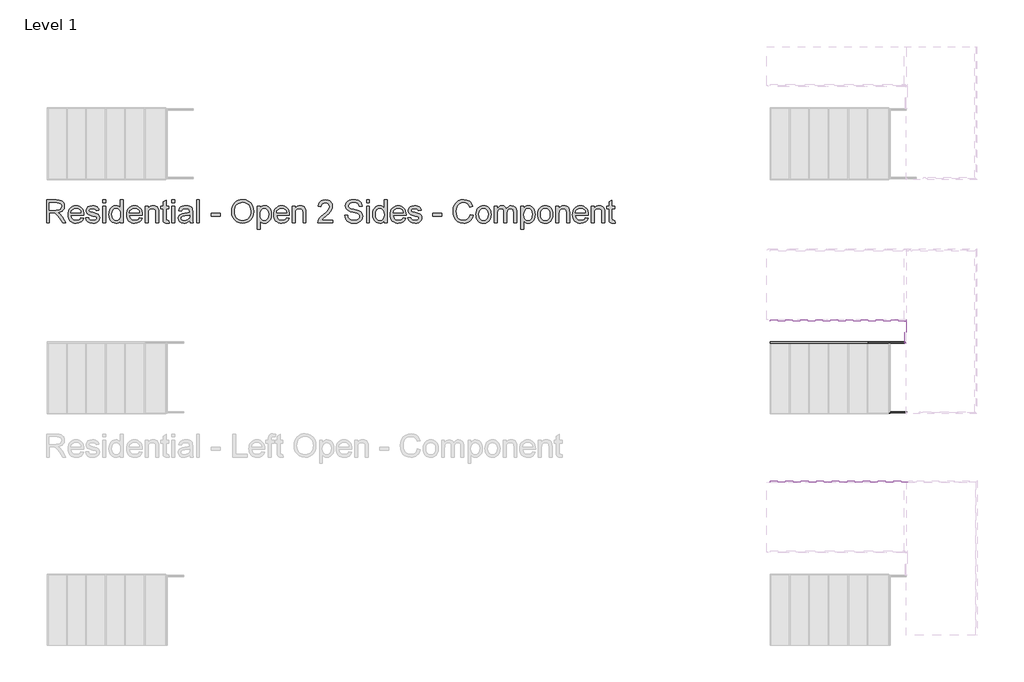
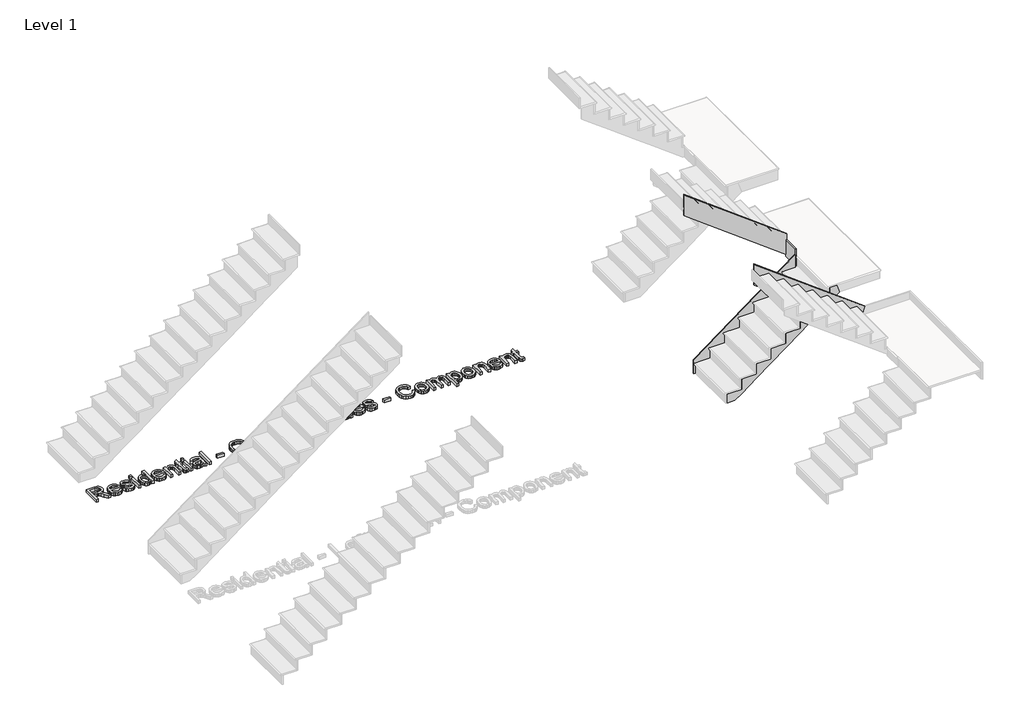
# One storey, part 10 of 15: 5 members, 1 proxy.
"""IFC4 building model written with IfcOpenShell, lengths in millimetres."""

from ifc_helpers import new_model, si_unit, frame, origin, origin_with_axes, place, context, project, spatial, polyline, outline, extrude, faceted_brep, element, save

model = new_model("IFC4")

# Units and contexts
model_context = context("Model", 3, world=origin())
ifc_project = project(units=[si_unit("LENGTHUNIT", "METRE", prefix="MILLI")], contexts=[model_context])

# Site, building, storey
site = spatial("IfcSite", under=ifc_project)
building = spatial("IfcBuilding", under=site)
storey = spatial("IfcBuildingStorey", under=building, Name="Level 1", Elevation=0.0)

# Proxy
placement = place(None, origin())
element("IfcBuildingElementProxy", 1, Name="12\" Arial", ObjectType="12\" Arial", at=placement, inside=storey, context=model_context, shape_type="SweptSolid", body=[
    extrude(outline(polyline([(-27238.310174, 3380.8767877), (-27238.310174, 3680.987557), (-27108.9899817, 3680.987557), (-27074.2328904, 3678.9634945), (-27048.9458471, 3672.891307), (-27030.4636837, 3661.6811146), (-27016.1212317, 3644.2430377), (-27006.9167846, 3622.619456), (-27003.8486356, 3598.8527493), (-27008.9316885, 3569.2886146), (-27024.1808471, 3544.780057), (-27035.7321993, 3534.7925449), (-27050.0540442, 3526.8107781), (-27087.0092125, 3516.86448), (-27065.6878664, 3500.8185185), (-27035.2811356, 3462.2056339), (-26985.238251, 3380.8767877), (-27028.8334433, 3380.8767877), (-27067.8859433, 3443.0823646), (-27096.0945971, 3484.2596723), (-27115.913924, 3503.7126531), (-27133.7549817, 3510.8564031), (-27155.5159433, 3512.1752493), (-27200.7963279, 3512.1752493), (-27200.7963279, 3380.8767877), (-27238.310174, 3380.8767877)]), holes=[polyline([(-27200.7963279, 3549.6890954), (-27116.8297894, 3549.6890954), (-27092.7150539, 3551.0171002), (-27074.003924, 3555.0011146), (-27059.9179144, 3561.9067396), (-27049.6785394, 3571.9995762), (-27043.4414962, 3584.2080618), (-27041.3624817, 3597.4606339), (-27045.3281789, 3615.7596243), (-27057.2252702, 3630.505057), (-27077.6948615, 3640.2315473), (-27107.3780587, 3643.4737108), (-27200.7963279, 3643.4737108), (-27200.7963279, 3549.6890954)])]), origin_with_axes(), (0.0, 0.0, 1.0), 50.8),
    extrude(outline(polyline([(-26788.5836356, 3446.5260185), (-26751.8024817, 3441.8367877), (-26765.0550539, 3414.1227012), (-26786.2023856, 3393.4058262), (-26814.7682269, 3380.4921243), (-26850.2763279, 3376.187557), (-26873.5530466, 3378.044474), (-26894.2928183, 3383.6152252), (-26912.4956428, 3392.8998106), (-26928.1615202, 3405.89823), (-26940.7592486, 3422.2487168), (-26949.757626, 3441.5895041), (-26955.1566524, 3463.9205918), (-26956.9563279, 3489.24198), (-26955.1383351, 3515.4219921), (-26949.6843567, 3538.4972204), (-26940.5943928, 3558.4676651), (-26927.8684433, 3575.3333262), (-26912.2437798, 3588.7324368), (-26894.457674, 3598.30323), (-26874.510126, 3604.045706), (-26852.4011356, 3605.9598646), (-26831.0042305, 3604.0502853), (-26811.6542846, 3598.3215473), (-26794.3512978, 3588.7736507), (-26779.0952702, 3575.4065954), (-26766.6417906, 3558.577569), (-26757.7464481, 3538.6437589), (-26752.4092426, 3515.6051651), (-26750.630174, 3489.4617877), (-26750.8499817, 3479.3506339), (-26919.4424817, 3479.3506339), (-26912.9489962, 3451.2702012), (-26897.8646933, 3430.6265954), (-26876.0945731, 3417.9327012), (-26849.5436356, 3413.7014031), (-26829.5777702, 3415.661355), (-26812.7624817, 3421.5412108), (-26799.0977702, 3431.7073166), (-26788.5836356, 3446.5260185)]), holes=[polyline([(-26919.4424817, 3516.86448), (-26788.1440202, 3516.86448), (-26793.2179144, 3536.683807), (-26803.1642125, 3550.8614031), (-26825.0350779, 3564.0498646), (-26852.547674, 3568.4460185), (-26877.8347173, 3564.9382541), (-26898.743924, 3554.4149608), (-26913.2787077, 3538.0118118), (-26919.4424817, 3516.86448)])]), origin_with_axes(), (0.0, 0.0, 1.0), 50.8),
    extrude(outline(polyline([(-26727.1840202, 3446.5260185), (-26689.670174, 3451.2152493), (-26683.7536837, 3435.1692877), (-26672.3053664, 3423.3729416), (-26655.2519529, 3416.1192877), (-26632.520174, 3413.7014031), (-26610.0631548, 3415.9177973), (-26594.2736356, 3422.56698), (-26584.9318087, 3432.2018839), (-26581.8178664, 3443.3754416), (-26584.950126, 3452.9370762), (-26594.3469048, 3460.2273646), (-26632.9597894, 3470.9246723), (-26689.4503664, 3489.2786146), (-26703.747025, 3498.5013791), (-26714.1054625, 3510.7098646), (-26720.3974577, 3525.1255858), (-26722.4947894, 3540.970057), (-26720.8095971, 3555.5048406), (-26715.7540202, 3568.9222685), (-26707.7859914, 3580.6911387), (-26697.3634433, 3590.2802493), (-26673.5143087, 3601.3805377), (-26641.2392125, 3605.9598646), (-26616.8222414, 3604.1189752), (-26595.5924817, 3598.596307), (-26578.520751, 3589.9322204), (-26566.5778664, 3578.6670762), (-26558.6647894, 3563.9674368), (-26553.6824817, 3544.9998646), (-26591.1963279, 3540.3106339), (-26595.9313519, 3552.1161387), (-26605.3006548, 3561.0091916), (-26619.3958231, 3566.5868118), (-26638.3084433, 3568.4460185), (-26659.8495971, 3566.6692396), (-26674.2103664, 3561.3389031), (-26682.288299, 3553.6456339), (-26684.9809433, 3544.780057), (-26680.5115202, 3533.8629416), (-26666.5170971, 3525.5835185), (-26634.2053664, 3517.5971723), (-26579.1435394, 3499.9392877), (-26564.5995971, 3491.4950089), (-26553.5725779, 3479.9367877), (-26546.6211596, 3465.2279896), (-26544.3040202, 3447.33198), (-26547.0241404, 3428.8314993), (-26555.184501, 3411.430057), (-26568.4737077, 3396.4922925), (-26586.5803664, 3385.3828454), (-26608.4512317, 3378.4863791), (-26633.0330587, 3376.187557), (-26670.858299, 3380.6203454), (-26698.4624817, 3393.9187108), (-26716.8896933, 3415.9361146), (-26727.1840202, 3446.5260185)])), origin_with_axes(), (0.0, 0.0, 1.0), 50.8),
    extrude(outline(polyline([(-26502.1009433, 3380.8767877), (-26502.1009433, 3601.2706339), (-26464.5870971, 3601.2706339), (-26464.5870971, 3380.8767877), (-26502.1009433, 3380.8767877)])), origin_with_axes(), (0.0, 0.0, 1.0), 50.8),
    extrude(outline(polyline([(-26502.1009433, 3643.4737108), (-26502.1009433, 3680.987557), (-26464.5870971, 3680.987557), (-26464.5870971, 3643.4737108), (-26502.1009433, 3643.4737108)])), origin_with_axes(), (0.0, 0.0, 1.0), 50.8),
    extrude(outline(polyline([(-26272.3286356, 3380.8767877), (-26272.3286356, 3416.2658262), (-26283.5525659, 3398.7315834), (-26297.1485875, 3386.2071243), (-26313.1167005, 3378.6924488), (-26331.4569048, 3376.187557), (-26355.7090202, 3379.8143839), (-26377.9095971, 3390.6948646), (-26396.7031548, 3408.068831), (-26410.7342125, 3431.1761146), (-26419.4715683, 3459.0825329), (-26422.3840202, 3490.8539031), (-26419.7005346, 3522.2314512), (-26411.6500779, 3550.5683262), (-26398.2418087, 3574.252605), (-26379.4848856, 3591.6723646), (-26356.7989, 3602.3879896), (-26331.6034433, 3605.9598646), (-26313.249501, 3603.4046002), (-26297.0203664, 3595.738807), (-26283.2640683, 3583.9882541), (-26272.3286356, 3569.1787108), (-26272.3286356, 3680.987557), (-26234.8147894, 3680.987557), (-26234.8147894, 3380.8767877), (-26272.3286356, 3380.8767877)]), holes=[polyline([(-26384.870174, 3491.0004416), (-26380.638876, 3457.0676291), (-26367.9449817, 3432.9345762), (-26349.4994529, 3418.5096964), (-26328.013251, 3413.7014031), (-26306.5362077, 3418.2898887), (-26288.5577702, 3432.0553454), (-26276.3859192, 3455.2542156), (-26272.3286356, 3488.1429416), (-26276.4591885, 3524.0998166), (-26288.8508471, 3549.0296723), (-26307.2872173, 3563.591932), (-26329.5519048, 3568.4460185), (-26351.2579144, 3563.7842637), (-26369.0440202, 3549.7989993), (-26380.9136356, 3525.7758502), (-26384.870174, 3491.0004416)])]), origin_with_axes(), (0.0, 0.0, 1.0), 50.8),
    extrude(outline(polyline([(-26024.2390202, 3446.5260185), (-25987.4578664, 3441.8367877), (-26000.7104385, 3414.1227012), (-26021.8577702, 3393.4058262), (-26050.4236115, 3380.4921243), (-26085.9317125, 3376.187557), (-26109.2084313, 3378.044474), (-26129.9482029, 3383.6152252), (-26148.1510274, 3392.8998106), (-26163.8169048, 3405.89823), (-26176.4146332, 3422.2487168), (-26185.4130106, 3441.5895041), (-26190.812037, 3463.9205918), (-26192.6117125, 3489.24198), (-26190.7937197, 3515.4219921), (-26185.3397414, 3538.4972204), (-26176.2497774, 3558.4676651), (-26163.5238279, 3575.3333262), (-26147.8991644, 3588.7324368), (-26130.1130587, 3598.30323), (-26110.1655106, 3604.045706), (-26088.0565202, 3605.9598646), (-26066.6596152, 3604.0502853), (-26047.3096692, 3598.3215473), (-26030.0066825, 3588.7736507), (-26014.7506548, 3575.4065954), (-26002.2971753, 3558.577569), (-25993.4018327, 3538.6437589), (-25988.0646272, 3515.6051651), (-25986.2855587, 3489.4617877), (-25986.5053664, 3479.3506339), (-26155.0978664, 3479.3506339), (-26148.6043808, 3451.2702012), (-26133.5200779, 3430.6265954), (-26111.7499577, 3417.9327012), (-26085.1990202, 3413.7014031), (-26065.2331548, 3415.661355), (-26048.4178664, 3421.5412108), (-26034.7531548, 3431.7073166), (-26024.2390202, 3446.5260185)]), holes=[polyline([(-26155.0978664, 3516.86448), (-26023.7994048, 3516.86448), (-26028.873299, 3536.683807), (-26038.8195971, 3550.8614031), (-26060.6904625, 3564.0498646), (-26088.2030587, 3568.4460185), (-26113.4901019, 3564.9382541), (-26134.3993087, 3554.4149608), (-26148.9340923, 3538.0118118), (-26155.0978664, 3516.86448)])]), origin_with_axes(), (0.0, 0.0, 1.0), 50.8),
    extrude(outline(polyline([(-25948.7717125, 3380.8767877), (-25948.7717125, 3601.2706339), (-25911.2578664, 3601.2706339), (-25911.2578664, 3570.497557), (-25898.2251019, 3586.0123166), (-25882.5729625, 3597.0942877), (-25864.3014481, 3603.7434704), (-25843.4105587, 3605.9598646), (-25824.9192365, 3604.1739271), (-25807.9848856, 3598.8161146), (-25793.8622414, 3590.5550089), (-25783.8060394, 3580.0591916), (-25772.5592125, 3552.4733262), (-25770.5809433, 3516.205057), (-25770.5809433, 3380.8767877), (-25808.0947894, 3380.8767877), (-25808.0947894, 3511.14948), (-25812.417674, 3544.3404416), (-25818.398275, 3554.2226291), (-25827.6943087, 3561.8884223), (-25839.6097173, 3566.8066195), (-25853.4484433, 3568.4460185), (-25875.4200539, 3564.7642396), (-25894.149501, 3553.7189031), (-25901.6344108, 3544.7022084), (-25906.980775, 3532.3792396), (-25911.2578664, 3497.81448), (-25911.2578664, 3380.8767877), (-25948.7717125, 3380.8767877)])), origin_with_axes(), (0.0, 0.0, 1.0), 50.8),
    extrude(outline(polyline([(-25639.2824817, 3412.1627493), (-25634.593251, 3379.7777493), (-25662.6553664, 3376.187557), (-25680.6612798, 3377.7445281), (-25694.0878664, 3382.4154416), (-25703.5762317, 3389.6141435), (-25709.7674817, 3398.75448), (-25713.174501, 3414.4524127), (-25714.310174, 3441.3239031), (-25714.310174, 3563.7567877), (-25742.4455587, 3563.7567877), (-25742.4455587, 3601.2706339), (-25714.310174, 3601.2706339), (-25714.310174, 3654.8304416), (-25676.7963279, 3676.88448), (-25676.7963279, 3601.2706339), (-25639.2824817, 3601.2706339), (-25639.2824817, 3563.7567877), (-25676.7963279, 3563.7567877), (-25676.7963279, 3442.4229416), (-25674.8180587, 3423.0798646), (-25668.407001, 3416.2291916), (-25655.6215202, 3413.7014031), (-25639.2824817, 3412.1627493)])), origin_with_axes(), (0.0, 0.0, 1.0), 50.8),
    extrude(outline(polyline([(-25601.7686356, 3380.8767877), (-25601.7686356, 3601.2706339), (-25564.2547894, 3601.2706339), (-25564.2547894, 3380.8767877), (-25601.7686356, 3380.8767877)])), origin_with_axes(), (0.0, 0.0, 1.0), 50.8),
    extrude(outline(polyline([(-25601.7686356, 3643.4737108), (-25601.7686356, 3680.987557), (-25564.2547894, 3680.987557), (-25564.2547894, 3643.4737108), (-25601.7686356, 3643.4737108)])), origin_with_axes(), (0.0, 0.0, 1.0), 50.8),
    extrude(outline(polyline([(-25367.3070971, 3409.0121723), (-25385.2305827, 3393.6439512), (-25403.6852702, 3383.5877493), (-25423.0924577, 3378.037605), (-25443.8734433, 3376.187557), (-25475.2235154, 3380.6386627), (-25498.3491164, 3393.99198), (-25512.6091404, 3414.2692396), (-25517.3624817, 3439.4921723), (-25515.5673856, 3455.0435666), (-25510.1820971, 3469.1662108), (-25501.8751981, 3481.2556339), (-25491.3152702, 3490.7073646), (-25465.048251, 3503.0165954), (-25432.5899817, 3508.6583262), (-25394.2335394, 3514.5931339), (-25367.5269048, 3521.5537108), (-25367.3070971, 3529.9064031), (-25369.8898375, 3546.6484223), (-25377.6380587, 3557.6021723), (-25394.9662317, 3565.735057), (-25419.1084433, 3568.4460185), (-25441.4555587, 3566.6417637), (-25457.0619048, 3561.2289993), (-25467.7042606, 3551.2185906), (-25475.1594048, 3535.6214031), (-25512.673251, 3540.3106339), (-25506.1614481, 3560.8260185), (-25496.4441164, 3576.9452493), (-25482.614549, 3589.2727973), (-25463.7660394, 3598.4131339), (-25440.7137077, 3604.073182), (-25414.272674, 3605.9598646), (-25388.9123615, 3604.2929896), (-25368.8091164, 3599.2923646), (-25353.6515442, 3591.7731098), (-25343.128251, 3582.5503454), (-25336.1493567, 3571.1478214), (-25331.6249817, 3557.0892877), (-25329.793251, 3524.2646723), (-25329.793251, 3477.5921723), (-25327.888251, 3412.4191916), (-25320.4147894, 3380.8767877), (-25357.9286356, 3380.8767877), (-25367.3070971, 3409.0121723)]), holes=[polyline([(-25367.3070971, 3484.0398646), (-25427.8274817, 3472.5365954), (-25460.1025779, 3466.4552493), (-25474.7197894, 3456.5639031), (-25479.8486356, 3442.1298646), (-25477.0552462, 3430.9746243), (-25468.6750779, 3421.8342877), (-25454.8913039, 3415.7346243), (-25435.8870971, 3413.7014031), (-25415.7380587, 3415.9452733), (-25397.9336356, 3422.6768839), (-25383.4995971, 3432.595706), (-25373.4617125, 3444.4012108), (-25369.0106067, 3456.5639031), (-25367.5269048, 3473.4158262), (-25367.3070971, 3484.0398646)])]), origin_with_axes(), (0.0, 0.0, 1.0), 50.8),
    extrude(outline(polyline([(-25278.2117125, 3380.8767877), (-25278.2117125, 3680.987557), (-25240.6978664, 3680.987557), (-25240.6978664, 3380.8767877), (-25278.2117125, 3380.8767877)])), origin_with_axes(), (0.0, 0.0, 1.0), 50.8),
    extrude(outline(polyline([(-25085.953251, 3469.9721723), (-25085.953251, 3507.4860185), (-24968.7224817, 3507.4860185), (-24968.7224817, 3469.9721723), (-25085.953251, 3469.9721723)])), origin_with_axes(), (0.0, 0.0, 1.0), 50.8),
    extrude(outline(polyline([(-24818.6670971, 3526.9756339), (-24816.1667846, 3562.1769199), (-24808.6658471, 3593.3392396), (-24796.1642846, 3620.462593), (-24778.6620971, 3643.54698), (-24757.2079505, 3661.9787709), (-24732.8505106, 3675.1443358), (-24705.5897774, 3683.0436747), (-24675.425751, 3685.6767877), (-24636.0618567, 3680.7311146), (-24600.7644048, 3665.8940954), (-24571.4567125, 3642.2098166), (-24550.0620971, 3610.7223646), (-24536.9835394, 3572.9520762), (-24532.6240202, 3530.4192877), (-24537.2125058, 3487.3186627), (-24550.9779625, 3449.0171723), (-24573.1602221, 3417.4747685), (-24602.9991164, 3394.6514031), (-24637.9943327, 3380.8035185), (-24675.6455587, 3376.187557), (-24715.613924, 3381.2889271), (-24751.1128664, 3396.5930377), (-24780.3472894, 3420.716932), (-24801.5220971, 3452.2776531), (-24814.3808471, 3488.5917156), (-24818.6670971, 3526.9756339)]), holes=[polyline([(-24781.153251, 3526.6092877), (-24779.2780166, 3501.7389632), (-24773.6523135, 3479.6620281), (-24764.2761416, 3460.3784824), (-24751.149501, 3443.8883262), (-24735.1928363, 3430.6815473), (-24717.3265923, 3421.2481339), (-24697.550769, 3415.5880858), (-24675.8653664, 3413.7014031), (-24653.8090382, 3415.6064031), (-24633.7996692, 3421.3214031), (-24615.8372594, 3430.8464031), (-24599.9218087, 3444.1814031), (-24586.8913339, 3461.0195882), (-24577.5838519, 3481.0541435), (-24571.9993628, 3504.285069), (-24570.1378664, 3530.7123646), (-24573.3250779, 3563.9216435), (-24582.8867125, 3592.6248646), (-24598.5754865, 3616.0984945), (-24620.1441164, 3633.6189993), (-24646.1638519, 3644.526956), (-24675.2059433, 3648.1629416), (-24696.1380466, 3646.411349), (-24715.5589721, 3641.1565714), (-24733.4687197, 3632.3986086), (-24749.8672894, 3620.1374608), (-24763.5548976, 3603.7823947), (-24773.3317606, 3582.7426771), (-24779.1978784, 3557.0183082), (-24781.153251, 3526.6092877)])]), origin_with_axes(), (0.0, 0.0, 1.0), 50.8),
    extrude(outline(polyline([(-24485.7317125, 3296.4706339), (-24485.7317125, 3601.2706339), (-24448.2178664, 3601.2706339), (-24448.2178664, 3564.48948), (-24435.9819048, 3582.6327733), (-24422.2805587, 3595.5922685), (-24406.3078664, 3603.3679656), (-24387.2578664, 3605.9598646), (-24361.8883952, 3602.3330377), (-24339.7061356, 3591.452557), (-24321.6452702, 3573.9778454), (-24308.6399817, 3550.5683262), (-24300.7818567, 3522.9275089), (-24298.1624817, 3492.7589031), (-24301.1207269, 3460.6761387), (-24309.9954625, 3431.9820762), (-24324.5027702, 3408.1329416), (-24344.3587317, 3390.5849608), (-24367.4843327, 3379.7869079), (-24391.8005587, 3376.187557), (-24409.0463039, 3378.5962829), (-24424.442001, 3385.8224608), (-24437.6213039, 3396.7304175), (-24448.2178664, 3410.18448), (-24448.2178664, 3296.4706339), (-24485.7317125, 3296.4706339)]), holes=[polyline([(-24448.2178664, 3489.3152493), (-24444.1605827, 3455.6846723), (-24431.9887317, 3432.1652493), (-24414.0286115, 3418.3173646), (-24392.6065202, 3413.7014031), (-24370.8364, 3418.4822204), (-24352.4183471, 3432.8246723), (-24339.8618327, 3457.2050089), (-24335.6763279, 3492.09948), (-24339.7610875, 3525.5468839), (-24352.0153664, 3549.3960185), (-24369.9480106, 3563.6835185), (-24391.0678664, 3568.4460185), (-24412.27015, 3563.3812829), (-24430.8896933, 3548.1870762), (-24443.8858231, 3523.3396483), (-24448.2178664, 3489.3152493)])]), origin_with_axes(), (0.0, 0.0, 1.0), 50.8),
    extrude(outline(polyline([(-24101.6544048, 3446.5260185), (-24064.873251, 3441.8367877), (-24078.1258231, 3414.1227012), (-24099.2731548, 3393.4058262), (-24127.8389962, 3380.4921243), (-24163.3470971, 3376.187557), (-24186.6238159, 3378.044474), (-24207.3635875, 3383.6152252), (-24225.566412, 3392.8998106), (-24241.2322894, 3405.89823), (-24253.8300178, 3422.2487168), (-24262.8283952, 3441.5895041), (-24268.2274216, 3463.9205918), (-24270.0270971, 3489.24198), (-24268.2091043, 3515.4219921), (-24262.755126, 3538.4972204), (-24253.665162, 3558.4676651), (-24240.9392125, 3575.3333262), (-24225.314549, 3588.7324368), (-24207.5284433, 3598.30323), (-24187.5808952, 3604.045706), (-24165.4719048, 3605.9598646), (-24144.0749998, 3604.0502853), (-24124.7250539, 3598.3215473), (-24107.4220671, 3588.7736507), (-24092.1660394, 3575.4065954), (-24079.7125599, 3558.577569), (-24070.8172173, 3538.6437589), (-24065.4800118, 3515.6051651), (-24063.7009433, 3489.4617877), (-24063.920751, 3479.3506339), (-24232.513251, 3479.3506339), (-24226.0197654, 3451.2702012), (-24210.9354625, 3430.6265954), (-24189.1653423, 3417.9327012), (-24162.6144048, 3413.7014031), (-24142.6485394, 3415.661355), (-24125.833251, 3421.5412108), (-24112.1685394, 3431.7073166), (-24101.6544048, 3446.5260185)]), holes=[polyline([(-24232.513251, 3516.86448), (-24101.2147894, 3516.86448), (-24106.2886837, 3536.683807), (-24116.2349817, 3550.8614031), (-24138.1058471, 3564.0498646), (-24165.6184433, 3568.4460185), (-24190.9054865, 3564.9382541), (-24211.8146933, 3554.4149608), (-24226.3494769, 3538.0118118), (-24232.513251, 3516.86448)])]), origin_with_axes(), (0.0, 0.0, 1.0), 50.8),
    extrude(outline(polyline([(-24026.1870971, 3380.8767877), (-24026.1870971, 3601.2706339), (-23988.673251, 3601.2706339), (-23988.673251, 3570.497557), (-23975.6404865, 3586.0123166), (-23959.9883471, 3597.0942877), (-23941.7168327, 3603.7434704), (-23920.8259433, 3605.9598646), (-23902.3346212, 3604.1739271), (-23885.4002702, 3598.8161146), (-23871.277626, 3590.5550089), (-23861.221424, 3580.0591916), (-23849.9745971, 3552.4733262), (-23847.9963279, 3516.205057), (-23847.9963279, 3380.8767877), (-23885.510174, 3380.8767877), (-23885.510174, 3511.14948), (-23889.8330587, 3544.3404416), (-23895.8136596, 3554.2226291), (-23905.1096933, 3561.8884223), (-23917.0251019, 3566.8066195), (-23930.8638279, 3568.4460185), (-23952.8354385, 3564.7642396), (-23971.5648856, 3553.7189031), (-23979.0497954, 3544.7022084), (-23984.3961596, 3532.3792396), (-23988.673251, 3497.81448), (-23988.673251, 3380.8767877), (-24026.1870971, 3380.8767877)])), origin_with_axes(), (0.0, 0.0, 1.0), 50.8),
    extrude(outline(polyline([(-23496.3040202, 3418.3906339), (-23496.3040202, 3380.8767877), (-23693.2517125, 3380.8767877), (-23689.2219048, 3406.7408262), (-23679.9716644, 3426.9539752), (-23666.435174, 3446.5626531), (-23646.8539721, 3467.0871964), (-23619.4695971, 3490.0479416), (-23578.9883471, 3526.0048166), (-23554.6995971, 3552.5465954), (-23542.5552221, 3574.0877493), (-23538.5070971, 3595.0427493), (-23542.3262558, 3613.8271483), (-23553.7837317, 3629.4426531), (-23571.3958231, 3639.9659464), (-23593.6788279, 3643.4737108), (-23617.0791885, 3640.0483743), (-23635.2591164, 3629.7723646), (-23646.9913519, 3613.4516435), (-23651.0486356, 3591.8921723), (-23688.5624817, 3596.5814031), (-23679.4679385, 3632.8679896), (-23670.9572594, 3647.3432421), (-23659.8043087, 3659.3731339), (-23646.2655286, 3668.829444), (-23630.5973615, 3675.5839512), (-23592.8728664, 3680.987557), (-23572.7673315, 3679.4855377), (-23554.8736115, 3674.97948), (-23539.1917065, 3667.4693839), (-23525.7216164, 3656.9552493), (-23514.9029565, 3644.2155618), (-23507.1753423, 3630.028807), (-23502.5387738, 3614.3949848), (-23500.993251, 3597.3140954), (-23502.660126, 3579.3722925), (-23507.660751, 3561.7418839), (-23516.5354865, 3543.8092396), (-23529.8246933, 3524.96073), (-23551.0086596, 3502.4579175), (-23583.567674, 3473.5623646), (-23626.723251, 3437.4772685), (-23643.6484433, 3418.3906339), (-23496.3040202, 3418.3906339)])), origin_with_axes(), (0.0, 0.0, 1.0), 50.8),
    extrude(outline(polyline([(-23341.5594048, 3484.0398646), (-23304.0455587, 3484.0398646), (-23299.7409914, 3463.2222445), (-23291.9561356, 3446.4893839), (-23279.8117606, 3433.2093358), (-23262.4286356, 3422.7501531), (-23241.1805587, 3415.9635906), (-23217.4413279, 3413.7014031), (-23196.5412798, 3415.4140714), (-23178.2422894, 3420.5520762), (-23163.4144289, 3428.6849608), (-23152.9277702, 3439.3822685), (-23146.6907269, 3451.6640233), (-23144.6117125, 3464.5502493), (-23146.1686837, 3477.1067637), (-23150.8395971, 3487.9597685), (-23160.3279625, 3497.2191675), (-23176.3372894, 3504.9948646), (-23230.959501, 3519.3189993), (-23266.8156308, 3528.798206), (-23289.7580587, 3537.81948), (-23308.4325539, 3550.440105), (-23321.6668087, 3565.735057), (-23329.5524096, 3583.3746243), (-23332.1809433, 3603.0290954), (-23328.9296212, 3625.000706), (-23319.1756548, 3645.4886146), (-23303.1754865, 3662.8534223), (-23281.1855587, 3675.45573), (-23254.7903183, 3683.1215233), (-23225.5742125, 3685.6767877), (-23193.9219048, 3683.0024608), (-23166.2261356, 3674.97948), (-23143.4760394, 3661.7727012), (-23126.660751, 3643.54698), (-23116.0183952, 3621.4379896), (-23111.7870971, 3596.5814031), (-23149.3009433, 3596.5814031), (-23156.188251, 3618.9651531), (-23170.5490202, 3635.1210185), (-23192.9877221, 3644.9024608), (-23224.1088279, 3648.1629416), (-23255.962626, 3644.9390954), (-23277.815174, 3635.267557), (-23290.4541164, 3621.0350089), (-23294.6670971, 3604.1281339), (-23291.681376, 3589.7124127), (-23282.7242125, 3578.117557), (-23261.5494048, 3567.7499608), (-23221.4711356, 3557.162557), (-23180.1106548, 3547.106355), (-23155.0892125, 3538.3323646), (-23133.7037558, 3524.722605), (-23118.7843087, 3507.9256339), (-23110.0194769, 3488.1246243), (-23107.0978664, 3465.5027493), (-23110.4590923, 3442.3771483), (-23120.5427702, 3420.6253454), (-23136.9367606, 3401.905057), (-23159.228924, 3387.8739993), (-23186.0363039, 3379.1091675), (-23215.9759433, 3376.187557), (-23252.7296212, 3379.3381339), (-23282.9806548, 3388.7898646), (-23307.0770731, 3404.5793839), (-23325.3669048, 3426.7433262), (-23337.108299, 3453.7430377), (-23341.5594048, 3484.0398646)])), origin_with_axes(), (0.0, 0.0, 1.0), 50.8),
    extrude(outline(polyline([(-23055.5163279, 3380.8767877), (-23055.5163279, 3601.2706339), (-23018.0024817, 3601.2706339), (-23018.0024817, 3380.8767877), (-23055.5163279, 3380.8767877)])), origin_with_axes(), (0.0, 0.0, 1.0), 50.8),
    extrude(outline(polyline([(-23055.5163279, 3643.4737108), (-23055.5163279, 3680.987557), (-23018.0024817, 3680.987557), (-23018.0024817, 3643.4737108), (-23055.5163279, 3643.4737108)])), origin_with_axes(), (0.0, 0.0, 1.0), 50.8),
    extrude(outline(polyline([(-22825.7440202, 3380.8767877), (-22825.7440202, 3416.2658262), (-22836.9679505, 3398.7315834), (-22850.5639721, 3386.2071243), (-22866.5320851, 3378.6924488), (-22884.8722894, 3376.187557), (-22909.1244048, 3379.8143839), (-22931.3249817, 3390.6948646), (-22950.1185394, 3408.068831), (-22964.1495971, 3431.1761146), (-22972.8869529, 3459.0825329), (-22975.7994048, 3490.8539031), (-22973.1159192, 3522.2314512), (-22965.0654625, 3550.5683262), (-22951.6571933, 3574.252605), (-22932.9002702, 3591.6723646), (-22910.2142846, 3602.3879896), (-22885.0188279, 3605.9598646), (-22866.6648856, 3603.4046002), (-22850.435751, 3595.738807), (-22836.6794529, 3583.9882541), (-22825.7440202, 3569.1787108), (-22825.7440202, 3680.987557), (-22788.230174, 3680.987557), (-22788.230174, 3380.8767877), (-22825.7440202, 3380.8767877)]), holes=[polyline([(-22938.2855587, 3491.0004416), (-22934.0542606, 3457.0676291), (-22921.3603664, 3432.9345762), (-22902.9148375, 3418.5096964), (-22881.4286356, 3413.7014031), (-22859.9515923, 3418.2898887), (-22841.9731548, 3432.0553454), (-22829.8013039, 3455.2542156), (-22825.7440202, 3488.1429416), (-22829.8745731, 3524.0998166), (-22842.2662317, 3549.0296723), (-22860.7026019, 3563.591932), (-22882.9672894, 3568.4460185), (-22904.673299, 3563.7842637), (-22922.4594048, 3549.7989993), (-22934.3290202, 3525.7758502), (-22938.2855587, 3491.0004416)])]), origin_with_axes(), (0.0, 0.0, 1.0), 50.8),
    extrude(outline(polyline([(-22577.6544048, 3446.5260185), (-22540.873251, 3441.8367877), (-22554.1258231, 3414.1227012), (-22575.2731548, 3393.4058262), (-22603.8389962, 3380.4921243), (-22639.3470971, 3376.187557), (-22662.6238159, 3378.044474), (-22683.3635875, 3383.6152252), (-22701.566412, 3392.8998106), (-22717.2322894, 3405.89823), (-22729.8300178, 3422.2487168), (-22738.8283952, 3441.5895041), (-22744.2274216, 3463.9205918), (-22746.0270971, 3489.24198), (-22744.2091043, 3515.4219921), (-22738.755126, 3538.4972204), (-22729.665162, 3558.4676651), (-22716.9392125, 3575.3333262), (-22701.314549, 3588.7324368), (-22683.5284433, 3598.30323), (-22663.5808952, 3604.045706), (-22641.4719048, 3605.9598646), (-22620.0749998, 3604.0502853), (-22600.7250539, 3598.3215473), (-22583.4220671, 3588.7736507), (-22568.1660394, 3575.4065954), (-22555.7125599, 3558.577569), (-22546.8172173, 3538.6437589), (-22541.4800118, 3515.6051651), (-22539.7009433, 3489.4617877), (-22539.920751, 3479.3506339), (-22708.513251, 3479.3506339), (-22702.0197654, 3451.2702012), (-22686.9354625, 3430.6265954), (-22665.1653423, 3417.9327012), (-22638.6144048, 3413.7014031), (-22618.6485394, 3415.661355), (-22601.833251, 3421.5412108), (-22588.1685394, 3431.7073166), (-22577.6544048, 3446.5260185)]), holes=[polyline([(-22708.513251, 3516.86448), (-22577.2147894, 3516.86448), (-22582.2886837, 3536.683807), (-22592.2349817, 3550.8614031), (-22614.1058471, 3564.0498646), (-22641.6184433, 3568.4460185), (-22666.9054865, 3564.9382541), (-22687.8146933, 3554.4149608), (-22702.3494769, 3538.0118118), (-22708.513251, 3516.86448)])]), origin_with_axes(), (0.0, 0.0, 1.0), 50.8),
    extrude(outline(polyline([(-22516.2547894, 3446.5260185), (-22478.7409433, 3451.2152493), (-22472.8244529, 3435.1692877), (-22461.3761356, 3423.3729416), (-22444.3227221, 3416.1192877), (-22421.5909433, 3413.7014031), (-22399.133924, 3415.9177973), (-22383.3444048, 3422.56698), (-22374.0025779, 3432.2018839), (-22370.8886356, 3443.3754416), (-22374.0208952, 3452.9370762), (-22383.417674, 3460.2273646), (-22422.0305587, 3470.9246723), (-22478.5211356, 3489.2786146), (-22492.8177942, 3498.5013791), (-22503.1762317, 3510.7098646), (-22509.4682269, 3525.1255858), (-22511.5655587, 3540.970057), (-22509.8803664, 3555.5048406), (-22504.8247894, 3568.9222685), (-22496.8567606, 3580.6911387), (-22486.4342125, 3590.2802493), (-22462.5850779, 3601.3805377), (-22430.3099817, 3605.9598646), (-22405.8930106, 3604.1189752), (-22384.663251, 3598.596307), (-22367.5915202, 3589.9322204), (-22355.6486356, 3578.6670762), (-22347.7355587, 3563.9674368), (-22342.753251, 3544.9998646), (-22380.2670971, 3540.3106339), (-22385.0021212, 3552.1161387), (-22394.371424, 3561.0091916), (-22408.4665923, 3566.5868118), (-22427.3792125, 3568.4460185), (-22448.9203664, 3566.6692396), (-22463.2811356, 3561.3389031), (-22471.3590683, 3553.6456339), (-22474.0517125, 3544.780057), (-22469.5822894, 3533.8629416), (-22455.5878664, 3525.5835185), (-22423.2761356, 3517.5971723), (-22368.2143087, 3499.9392877), (-22353.6703664, 3491.4950089), (-22342.6433471, 3479.9367877), (-22335.6919289, 3465.2279896), (-22333.3747894, 3447.33198), (-22336.0949096, 3428.8314993), (-22344.2552702, 3411.430057), (-22357.5444769, 3396.4922925), (-22375.6511356, 3385.3828454), (-22397.522001, 3378.4863791), (-22422.1038279, 3376.187557), (-22459.9290683, 3380.6203454), (-22487.533251, 3393.9187108), (-22505.9604625, 3415.9361146), (-22516.2547894, 3446.5260185)])), origin_with_axes(), (0.0, 0.0, 1.0), 50.8),
    extrude(outline(polyline([(-22192.6978664, 3469.9721723), (-22192.6978664, 3507.4860185), (-22075.4670971, 3507.4860185), (-22075.4670971, 3469.9721723), (-22192.6978664, 3469.9721723)])), origin_with_axes(), (0.0, 0.0, 1.0), 50.8),
    extrude(outline(polyline([(-21700.3286356, 3487.5567877), (-21662.8147894, 3477.8852493), (-21670.2378784, 3454.5558683), (-21680.1246452, 3434.1709945), (-21692.4750899, 3416.7306279), (-21707.2892125, 3402.2347685), (-21724.2327221, 3390.8391134), (-21742.9713279, 3382.6993598), (-21763.5050298, 3377.8155077), (-21785.8338279, 3376.187557), (-21829.3465923, 3381.1149127), (-21863.9021933, 3395.89698), (-21890.3890202, 3420.0208743), (-21909.6954625, 3452.9737108), (-21921.48265, 3491.7148166), (-21925.4117125, 3533.2035185), (-21920.9697654, 3576.9635666), (-21907.643924, 3614.7521723), (-21886.1302462, 3645.3695521), (-21857.1247894, 3667.6159223), (-21822.7248856, 3681.1615714), (-21785.0278664, 3685.6767877), (-21743.8963519, 3679.8335666), (-21726.002632, 3672.5295401), (-21709.8902702, 3662.3039031), (-21695.8248676, 3649.4268358), (-21684.072025, 3634.1685185), (-21667.5040202, 3596.5081339), (-21705.0178664, 3587.5692877), (-21718.0231548, 3614.9261868), (-21735.7909433, 3633.6922685), (-21758.5410394, 3644.5452733), (-21786.493251, 3648.1629416), (-21818.7133952, 3644.1514512), (-21845.1819048, 3632.11698), (-21865.2668327, 3613.3234223), (-21878.3362317, 3589.0346723), (-21885.5074577, 3561.5770281), (-21887.8978664, 3533.2767877), (-21885.0678423, 3498.6204416), (-21876.5777702, 3468.6533262), (-21862.1070971, 3444.5202733), (-21841.3352702, 3427.3661146), (-21816.4328904, 3417.117581), (-21789.5705587, 3413.7014031), (-21758.2571212, 3418.3539993), (-21732.1641164, 3432.3117877), (-21712.4638519, 3455.42823), (-21700.3286356, 3487.5567877)])), origin_with_axes(), (0.0, 0.0, 1.0), 50.8),
    extrude(outline(polyline([(-21625.3009433, 3491.0737108), (-21623.2723015, 3519.6166555), (-21617.186376, 3544.2122204), (-21607.0431668, 3564.8604055), (-21592.842674, 3581.5612108), (-21578.5460154, 3592.2356219), (-21562.7656548, 3599.8602012), (-21545.5015923, 3604.4349488), (-21526.7538279, 3605.9598646), (-21506.0575599, 3604.1029476), (-21487.3441404, 3598.5321964), (-21470.6135695, 3589.247611), (-21455.8658471, 3576.2491916), (-21443.8290863, 3559.9765534), (-21435.2314, 3540.8693118), (-21430.0727882, 3518.9274668), (-21428.353251, 3494.1510185), (-21431.393924, 3456.2525089), (-21440.5159433, 3427.4027493), (-21455.4537077, 3405.7974848), (-21475.9416164, 3389.6324608), (-21500.2761596, 3379.5487829), (-21526.7538279, 3376.187557), (-21547.7523315, 3378.037605), (-21566.6397654, 3383.5877493), (-21583.4161296, 3392.8379896), (-21598.081424, 3405.7883262), (-21609.9899637, 3422.2189512), (-21618.4960635, 3441.910057), (-21623.5997233, 3464.8616435), (-21625.3009433, 3491.0737108)]), holes=[polyline([(-21587.7870971, 3491.14698), (-21583.4458952, 3457.1958502), (-21570.4222894, 3433.0078454), (-21550.8227702, 3418.5280137), (-21526.7538279, 3413.7014031), (-21502.7947894, 3418.5554896), (-21483.2319048, 3433.1177493), (-21470.208299, 3457.626307), (-21465.8670971, 3492.3192877), (-21470.235775, 3525.2812829), (-21483.3418087, 3549.1395762), (-21502.9321692, 3563.6194079), (-21526.7538279, 3568.4460185), (-21550.8227702, 3563.6377252), (-21570.4222894, 3549.2128454), (-21583.4458952, 3525.0797925), (-21587.7870971, 3491.14698)])]), origin_with_axes(), (0.0, 0.0, 1.0), 50.8),
    extrude(outline(polyline([(-21386.150174, 3380.8767877), (-21386.150174, 3601.2706339), (-21348.6363279, 3601.2706339), (-21348.6363279, 3565.0023646), (-21337.3528664, 3581.661956), (-21322.8455587, 3594.7130377), (-21305.6089721, 3603.1481579), (-21286.137674, 3605.9598646), (-21265.2742606, 3603.093206), (-21248.5505587, 3594.49323), (-21236.0581548, 3580.7277733), (-21227.8886356, 3562.3646723), (-21214.2147654, 3581.437569), (-21198.6175779, 3595.0610666), (-21181.0970731, 3603.2351651), (-21161.653251, 3605.9598646), (-21133.4537558, 3601.426331), (-21112.599501, 3587.82573), (-21099.713275, 3564.7917156), (-21095.4178664, 3531.9579416), (-21095.4178664, 3380.8767877), (-21132.9317125, 3380.8767877), (-21132.9317125, 3515.8387108), (-21136.412001, 3547.161307), (-21141.3027221, 3555.7979175), (-21149.0143087, 3562.58448), (-21158.9331308, 3566.9806339), (-21170.4455587, 3568.4460185), (-21190.7686115, 3564.6909704), (-21207.3366164, 3553.4258262), (-21218.3544769, 3533.8812589), (-21222.0270971, 3505.2879416), (-21222.0270971, 3380.8767877), (-21259.5409433, 3380.8767877), (-21259.5409433, 3520.015057), (-21261.7115442, 3541.2264993), (-21268.2233471, 3556.3565954), (-21279.6808231, 3565.4236627), (-21296.6884433, 3568.4460185), (-21311.140799, 3566.4311146), (-21324.4574817, 3560.3864031), (-21335.4478664, 3550.4584223), (-21342.9213279, 3536.7937108), (-21347.2075779, 3517.8352973), (-21348.6363279, 3492.0262108), (-21348.6363279, 3380.8767877), (-21386.150174, 3380.8767877)])), origin_with_axes(), (0.0, 0.0, 1.0), 50.8),
    extrude(outline(polyline([(-21039.1470971, 3296.4706339), (-21039.1470971, 3601.2706339), (-21001.633251, 3601.2706339), (-21001.633251, 3564.48948), (-20989.3972894, 3582.6327733), (-20975.6959433, 3595.5922685), (-20959.723251, 3603.3679656), (-20940.673251, 3605.9598646), (-20915.3037798, 3602.3330377), (-20893.1215202, 3591.452557), (-20875.0606548, 3573.9778454), (-20862.0553664, 3550.5683262), (-20854.1972414, 3522.9275089), (-20851.5778664, 3492.7589031), (-20854.5361115, 3460.6761387), (-20863.4108471, 3431.9820762), (-20877.9181548, 3408.1329416), (-20897.7741164, 3390.5849608), (-20920.8997173, 3379.7869079), (-20945.2159433, 3376.187557), (-20962.4616885, 3378.5962829), (-20977.8573856, 3385.8224608), (-20991.0366885, 3396.7304175), (-21001.633251, 3410.18448), (-21001.633251, 3296.4706339), (-21039.1470971, 3296.4706339)]), holes=[polyline([(-21001.633251, 3489.3152493), (-20997.5759673, 3455.6846723), (-20985.4041164, 3432.1652493), (-20967.4439962, 3418.3173646), (-20946.0219048, 3413.7014031), (-20924.2517846, 3418.4822204), (-20905.8337317, 3432.8246723), (-20893.2772173, 3457.2050089), (-20889.0917125, 3492.09948), (-20893.1764721, 3525.5468839), (-20905.430751, 3549.3960185), (-20923.3633952, 3563.6835185), (-20944.483251, 3568.4460185), (-20965.6855346, 3563.3812829), (-20984.3050779, 3548.1870762), (-20997.3012077, 3523.3396483), (-21001.633251, 3489.3152493)])]), origin_with_axes(), (0.0, 0.0, 1.0), 50.8),
    extrude(outline(polyline([(-20818.753251, 3491.0737108), (-20816.7246091, 3519.6166555), (-20810.6386837, 3544.2122204), (-20800.4954745, 3564.8604055), (-20786.2949817, 3581.5612108), (-20771.9983231, 3592.2356219), (-20756.2179625, 3599.8602012), (-20738.9539, 3604.4349488), (-20720.2061356, 3605.9598646), (-20699.5098676, 3604.1029476), (-20680.7964481, 3598.5321964), (-20664.0658772, 3589.247611), (-20649.3181548, 3576.2491916), (-20637.281394, 3559.9765534), (-20628.6837077, 3540.8693118), (-20623.5250959, 3518.9274668), (-20621.8055587, 3494.1510185), (-20624.8462317, 3456.2525089), (-20633.968251, 3427.4027493), (-20648.9060154, 3405.7974848), (-20669.393924, 3389.6324608), (-20693.7284673, 3379.5487829), (-20720.2061356, 3376.187557), (-20741.2046392, 3378.037605), (-20760.0920731, 3383.5877493), (-20776.8684373, 3392.8379896), (-20791.5337317, 3405.7883262), (-20803.4422714, 3422.2189512), (-20811.9483712, 3441.910057), (-20817.052031, 3464.8616435), (-20818.753251, 3491.0737108)]), holes=[polyline([(-20781.2394048, 3491.14698), (-20776.8982029, 3457.1958502), (-20763.8745971, 3433.0078454), (-20744.2750779, 3418.5280137), (-20720.2061356, 3413.7014031), (-20696.2470971, 3418.5554896), (-20676.6842125, 3433.1177493), (-20663.6606067, 3457.626307), (-20659.3194048, 3492.3192877), (-20663.6880827, 3525.2812829), (-20676.7941164, 3549.1395762), (-20696.3844769, 3563.6194079), (-20720.2061356, 3568.4460185), (-20744.2750779, 3563.6377252), (-20763.8745971, 3549.2128454), (-20776.8982029, 3525.0797925), (-20781.2394048, 3491.14698)])]), origin_with_axes(), (0.0, 0.0, 1.0), 50.8),
    extrude(outline(polyline([(-20579.6024817, 3380.8767877), (-20579.6024817, 3601.2706339), (-20542.0886356, 3601.2706339), (-20542.0886356, 3570.497557), (-20529.0558712, 3586.0123166), (-20513.4037317, 3597.0942877), (-20495.1322173, 3603.7434704), (-20474.2413279, 3605.9598646), (-20455.7500058, 3604.1739271), (-20438.8156548, 3598.8161146), (-20424.6930106, 3590.5550089), (-20414.6368087, 3580.0591916), (-20403.3899817, 3552.4733262), (-20401.4117125, 3516.205057), (-20401.4117125, 3380.8767877), (-20438.9255587, 3380.8767877), (-20438.9255587, 3511.14948), (-20443.2484433, 3544.3404416), (-20449.2290442, 3554.2226291), (-20458.5250779, 3561.8884223), (-20470.4404865, 3566.8066195), (-20484.2792125, 3568.4460185), (-20506.2508231, 3564.7642396), (-20524.9802702, 3553.7189031), (-20532.4651801, 3544.7022084), (-20537.8115442, 3532.3792396), (-20542.0886356, 3497.81448), (-20542.0886356, 3380.8767877), (-20579.6024817, 3380.8767877)])), origin_with_axes(), (0.0, 0.0, 1.0), 50.8),
    extrude(outline(polyline([(-20195.525174, 3446.5260185), (-20158.7440202, 3441.8367877), (-20171.9965923, 3414.1227012), (-20193.143924, 3393.4058262), (-20221.7097654, 3380.4921243), (-20257.2178664, 3376.187557), (-20280.4945851, 3378.044474), (-20301.2343567, 3383.6152252), (-20319.4371813, 3392.8998106), (-20335.1030587, 3405.89823), (-20347.700787, 3422.2487168), (-20356.6991644, 3441.5895041), (-20362.0981909, 3463.9205918), (-20363.8978664, 3489.24198), (-20362.0798736, 3515.4219921), (-20356.6258952, 3538.4972204), (-20347.5359313, 3558.4676651), (-20334.8099817, 3575.3333262), (-20319.1853183, 3588.7324368), (-20301.3992125, 3598.30323), (-20281.4516644, 3604.045706), (-20259.342674, 3605.9598646), (-20237.945769, 3604.0502853), (-20218.5958231, 3598.3215473), (-20201.2928363, 3588.7736507), (-20186.0368087, 3575.4065954), (-20173.5833291, 3558.577569), (-20164.6879865, 3538.6437589), (-20159.350781, 3515.6051651), (-20157.5717125, 3489.4617877), (-20157.7915202, 3479.3506339), (-20326.3840202, 3479.3506339), (-20319.8905346, 3451.2702012), (-20304.8062317, 3430.6265954), (-20283.0361115, 3417.9327012), (-20256.485174, 3413.7014031), (-20236.5193087, 3415.661355), (-20219.7040202, 3421.5412108), (-20206.0393087, 3431.7073166), (-20195.525174, 3446.5260185)]), holes=[polyline([(-20326.3840202, 3516.86448), (-20195.0855587, 3516.86448), (-20200.1594529, 3536.683807), (-20210.105751, 3550.8614031), (-20231.9766164, 3564.0498646), (-20259.4892125, 3568.4460185), (-20284.7762558, 3564.9382541), (-20305.6854625, 3554.4149608), (-20320.2202462, 3538.0118118), (-20326.3840202, 3516.86448)])]), origin_with_axes(), (0.0, 0.0, 1.0), 50.8),
    extrude(outline(polyline([(-20120.0578664, 3380.8767877), (-20120.0578664, 3601.2706339), (-20082.5440202, 3601.2706339), (-20082.5440202, 3570.497557), (-20069.5112558, 3586.0123166), (-20053.8591164, 3597.0942877), (-20035.5876019, 3603.7434704), (-20014.6967125, 3605.9598646), (-19996.2053904, 3604.1739271), (-19979.2710394, 3598.8161146), (-19965.1483952, 3590.5550089), (-19955.0921933, 3580.0591916), (-19943.8453664, 3552.4733262), (-19941.8670971, 3516.205057), (-19941.8670971, 3380.8767877), (-19979.3809433, 3380.8767877), (-19979.3809433, 3511.14948), (-19983.7038279, 3544.3404416), (-19989.6844289, 3554.2226291), (-19998.9804625, 3561.8884223), (-20010.8958712, 3566.8066195), (-20024.7345971, 3568.4460185), (-20046.7062077, 3564.7642396), (-20065.4356548, 3553.7189031), (-20072.9205647, 3544.7022084), (-20078.2669289, 3532.3792396), (-20082.5440202, 3497.81448), (-20082.5440202, 3380.8767877), (-20120.0578664, 3380.8767877)])), origin_with_axes(), (0.0, 0.0, 1.0), 50.8),
    extrude(outline(polyline([(-19810.5686356, 3412.1627493), (-19805.8794048, 3379.7777493), (-19833.9415202, 3376.187557), (-19851.9474337, 3377.7445281), (-19865.3740202, 3382.4154416), (-19874.8623856, 3389.6141435), (-19881.0536356, 3398.75448), (-19884.4606548, 3414.4524127), (-19885.5963279, 3441.3239031), (-19885.5963279, 3563.7567877), (-19913.7317125, 3563.7567877), (-19913.7317125, 3601.2706339), (-19885.5963279, 3601.2706339), (-19885.5963279, 3654.8304416), (-19848.0824817, 3676.88448), (-19848.0824817, 3601.2706339), (-19810.5686356, 3601.2706339), (-19810.5686356, 3563.7567877), (-19848.0824817, 3563.7567877), (-19848.0824817, 3442.4229416), (-19846.1042125, 3423.0798646), (-19839.6931548, 3416.2291916), (-19826.907674, 3413.7014031), (-19810.5686356, 3412.1627493)])), origin_with_axes(), (0.0, 0.0, 1.0), 50.8),
])

# Members
element("IfcMember", 2, at=placement, inside=storey, context=model_context, shape_type="SweptSolid", body=[
    extrude(outline(polyline([(242.8875, -17782.0481446), (0.0, -17782.0481446), (0.0, -17597.8981446), (1181.1, -16023.0981446), (1562.1, -16023.0981446), (242.8875, -17782.0481446)])), frame((0.0, 1810.5568972, 0.0), z_axis=(0.0, 1.0, 0.0), x_axis=(0.0, 0.0, 1.0)), (0.0, 0.0, 1.0), 19.05),
])
element("IfcMember", 3, at=placement, inside=storey, context=model_context, shape_type="Brep", body=[
    faceted_brep([(-17737.5981446, 915.2068972, 0.0), (-17597.8981446, 915.2068972, 0.0), (-17597.8981446, 896.1568972, 0.0), (-17737.5981446, 896.1568972, 0.0), (-15786.031478, 896.1568972, 1358.9), (-15832.5981446, 896.1568972, 1498.6), (-15959.5981446, 896.1568972, 1498.6), (-15959.5981446, 896.1568972, 1308.1), (-16004.0481446, 896.1568972, 1308.1), (-16213.5981446, 896.1568972, 1308.1), (-16213.5981446, 896.1568972, 1117.6), (-16467.5981446, 896.1568972, 1117.6), (-16467.5981446, 896.1568972, 927.1), (-16721.5981446, 896.1568972, 927.1), (-16721.5981446, 896.1568972, 736.6), (-16975.5981446, 896.1568972, 736.6), (-16975.5981446, 896.1568972, 546.1), (-17229.5981446, 896.1568972, 546.1), (-17229.5981446, 896.1568972, 355.6), (-17483.5981446, 896.1568972, 355.6), (-17483.5981446, 896.1568972, 165.1), (-17737.5981446, 896.1568972, 165.1), (-17483.5981446, 896.1568972, 85.725), (-17229.5981446, 896.1568972, 276.225), (-16975.5981446, 896.1568972, 466.725), (-16721.5981446, 896.1568972, 657.225), (-16467.5981446, 896.1568972, 847.725), (-16213.5981446, 896.1568972, 1038.225), (-16004.0481446, 896.1568972, 1195.3875), (-15959.5981446, 896.1568972, 1228.725), (-17737.5981446, 915.2068972, 165.1), (-17483.5981446, 915.2068972, 165.1), (-15832.5981446, 915.2068972, 1498.6), (-15786.031478, 915.2068972, 1358.9), (-17483.5981446, 915.2068972, 355.6), (-17229.5981446, 915.2068972, 355.6), (-17229.5981446, 915.2068972, 546.1), (-16975.5981446, 915.2068972, 546.1), (-16975.5981446, 915.2068972, 736.6), (-16721.5981446, 915.2068972, 736.6), (-16721.5981446, 915.2068972, 927.1), (-16467.5981446, 915.2068972, 927.1), (-16467.5981446, 915.2068972, 1117.6), (-16213.5981446, 915.2068972, 1117.6), (-16213.5981446, 915.2068972, 1308.1), (-15959.5981446, 915.2068972, 1308.1), (-15959.5981446, 915.2068972, 1498.6)], [[[0, 1, 2, 3]], [[4, 5, 6, 7, 8, 9, 10, 11, 12, 13, 14, 15, 16, 17, 18, 19, 20, 21, 3, 2, 22, 23, 24, 25, 26, 27, 28, 29]], [[30, 21, 20, 31]], [[32, 33, 1, 0, 30, 31, 34, 35, 36, 37, 38, 39, 40, 41, 42, 43, 44, 45, 46]], [[21, 30, 0, 3]], [[34, 19, 18, 35]], [[31, 20, 19, 34]], [[36, 17, 16, 37]], [[35, 18, 17, 36]], [[38, 15, 14, 39]], [[37, 16, 15, 38]], [[40, 13, 12, 41]], [[39, 14, 13, 40]], [[42, 11, 10, 43]], [[41, 12, 11, 42]], [[44, 9, 8, 7, 45]], [[43, 10, 9, 44]], [[46, 6, 5, 32]], [[45, 7, 6, 46]], [[4, 33, 32, 5]], [[33, 4, 29, 28, 27, 26, 25, 24, 23, 22, 2, 1]]]),
])
element("IfcMember", 4, at=placement, inside=storey, context=model_context, shape_type="SweptSolid", body=[
    extrude(outline(polyline([(1385.8875, -16004.0481446), (1766.8875, -16004.0481446), (3100.3875, -17782.0481446), (2719.3875, -17782.0481446), (1385.8875, -16004.0481446)])), frame((0.0, 2096.3068972, 0.0), z_axis=(0.0, 1.0, 0.0), x_axis=(0.0, 0.0, 1.0)), (0.0, 0.0, 1.0), 19.05),
])
element("IfcMember", 5, at=placement, inside=storey, context=model_context, shape_type="SweptSolid", body=[
    extrude(outline(polyline([(-16023.0981446, 2096.3068972), (-16004.0481446, 2096.3068972), (-16004.0481446, 1810.5568972), (-16023.0981446, 1810.5568972), (-16023.0981446, 2096.3068972)])), frame((0.0, 0.0, 1358.9), z_axis=(0.0, 0.0, 1.0), x_axis=(1.0, 0.0, 0.0)), (0.0, 0.0, 1.0), 304.8),
])
element("IfcMember", 6, at=placement, inside=storey, context=model_context, shape_type="SweptSolid", body=[
    extrude(outline(polyline([(1358.9, -15968.0648113), (1663.7, -15866.4648113), (3100.3875, -17782.0481446), (2719.3875, -17782.0481446), (1358.9, -15968.0648113)])), frame((0.0, -6.4871906, 0.0), z_axis=(0.0, 1.0, 0.0), x_axis=(0.0, 0.0, 1.0)), (0.0, 0.0, 1.0), 19.05),
])

save(model, "model.ifc")
